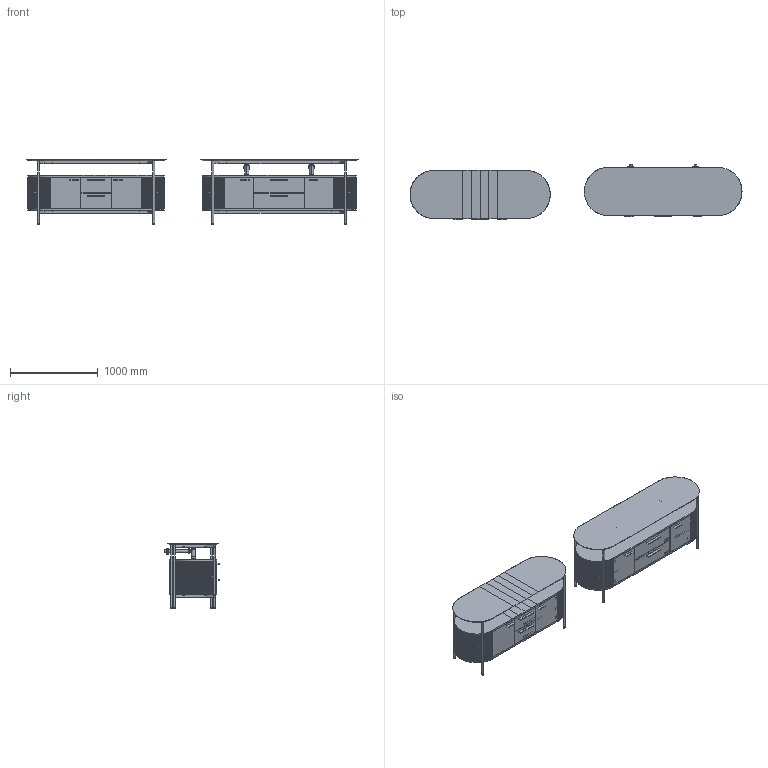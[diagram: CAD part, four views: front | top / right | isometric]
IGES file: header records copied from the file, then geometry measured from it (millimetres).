
Global section: file name: \\Archi-NAS\Comune\X GIOVANNI\SCHEDE PRODOTTO\MOBILI 3D\ECLIPSE\MOMA DESIGN_MOBILI_ECLIPSE GLASS_05.igs; native system: Rhinoceros ( Jan 17 2018 ); preprocessor: Trout Lake IGES 012 Jan 17 2018; date: 240419.121146; units: millimetre
Bounding box: 3788.29 x 628.63 x 750 mm (x, y, z)
Surface area: 30347414.9 mm2 (no closed solid volume)
Topology: 0 solids, 0 shells, 9751 faces, 51210 edges, 51249 vertices
Faces by surface type: bspline 9751
